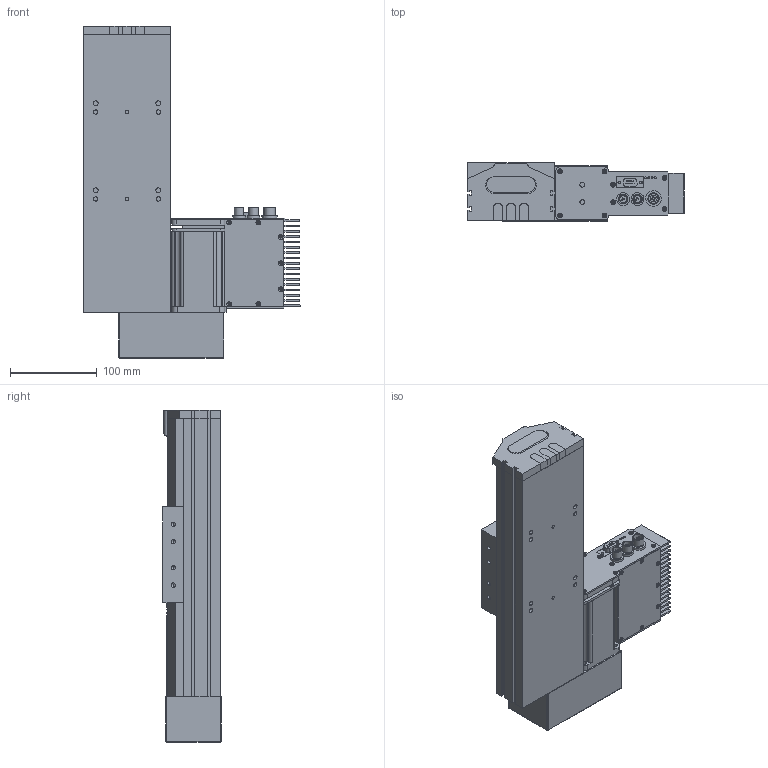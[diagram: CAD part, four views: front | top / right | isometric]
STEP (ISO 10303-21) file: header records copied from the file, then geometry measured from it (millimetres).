
FILE_DESCRIPTION (( 'STEP AP203' ), '1' );
FILE_NAME ('S 10 TSH BR S100.STEP', '2012-09-04T13:11:42', ( 'Conseil Régional Haute-Normandie' ), ( 'Conseil Régional Haute-Normandie' ), 'SwSTEP 2.0', 'SolidWorks 2010', '' );
FILE_SCHEMA (( 'CONFIG_CONTROL_DESIGN' ));
Length unit declared in the file: millimetre
Products named in the file (25): embout_modifié; remplir_Default; BU45 Carte d''axe A11_5; BU41 Carte Alimentation P05_3; Colonnette_3; Sub D 9cts 90_X2_00B_X0__3; Connecteur rond D12 4cts_5; Radiateur profil_X2_00E9_X0_ 100x25_3; renvoie LH2_Default; Vis TF 3 torkx; S 10 TSH BR S100; axe320_Default; piece_plastique remplieTSH_Default; Pièce2_Default; palette tbn2; Assem1_7; T_X2_00F4_X0_le contre le moteur_5; Moteur 60BLDC90A_3; Couvercle_3; T_X2_00F4_X0_le fond_3; Connecteur rond D10 3cts_5; Colonnette ronde_3; T_X2_00F4_X0_le Arri_X2_00E8_X0_re_5; T_X2_00F4_X0_le lat_X2_00E9_X0_rale_5; Vis TF 3 torkx_1_1
Assembly tree (55 placements, depth 3):
  S 10 TSH BR S100
    Vis TF 3 torkx  x7
    axe320_Default
    palette tbn2
    piece_plastique remplieTSH_Default
      Pièce2_Default
      remplir_Default  x3
      embout_modifié
    renvoie LH2_Default
    Assem1_7
      BU45 Carte d''axe A11_5
      Vis TF 3 torkx_1_1  x21
      T_X2_00F4_X0_le lat_X2_00E9_X0_rale_5  x2
      T_X2_00F4_X0_le contre le moteur_5
      T_X2_00F4_X0_le fond_3
      Connecteur rond D12 4cts_5
      Radiateur profil_X2_00E9_X0_ 100x25_3
      Colonnette ronde_3
      Moteur 60BLDC90A_3
      BU41 Carte Alimentation P05_3
      Couvercle_3
      Connecteur rond D10 3cts_5  x2
      Colonnette_3  x2
      Sub D 9cts 90_X2_00B_X0__3
      T_X2_00F4_X0_le Arri_X2_00E8_X0_re_5
Bounding box: 249.51 x 67.1 x 382 mm (x, y, z)
Volume: 2414985.7 mm3; surface area: 478523.4 mm2
Topology: 53 solids, 53 shells, 1948 faces, 4966 edges, 3230 vertices
Faces by surface type: plane 918, cylinder 859, cone 164, sphere 4, torus 3
Entity records: 38041 total; most frequent: CARTESIAN_POINT 6376, DIRECTION 6181, ORIENTED_EDGE 5624, EDGE_CURVE 2812, AXIS2_PLACEMENT_3D 2260, VERTEX_POINT 1842, LINE 1661, VECTOR 1661
